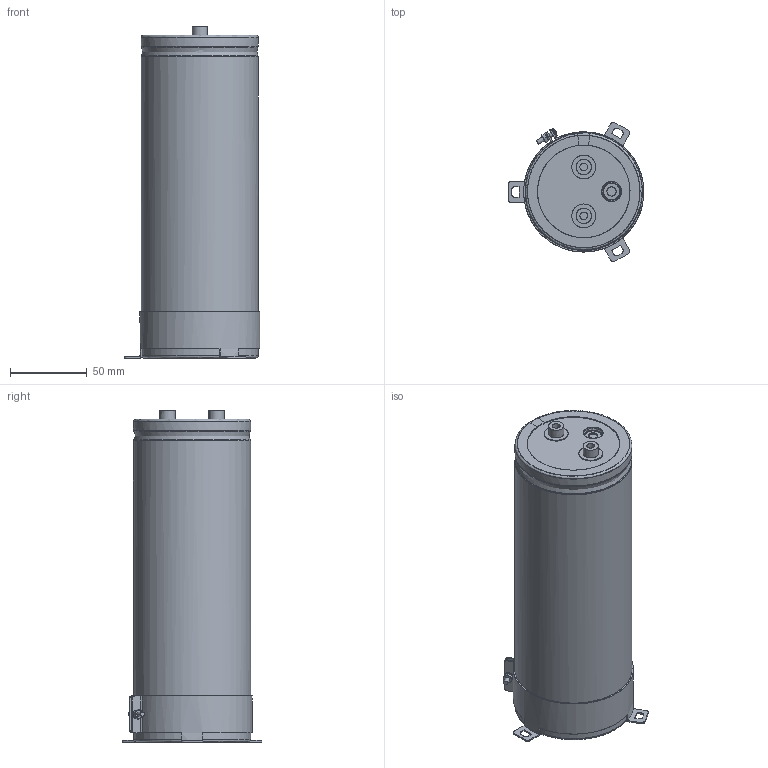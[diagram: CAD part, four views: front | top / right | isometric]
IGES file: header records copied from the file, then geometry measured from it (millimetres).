
Start section: JAMA-IS VERSION  1.0
Bounding box: 88.3 x 90.75 x 216 mm (x, y, z)
Surface area: 180730 mm2 (no closed solid volume)
Topology: 0 solids, 0 shells, 259 faces, 4448 edges, 4417 vertices
Faces by surface type: bspline 259
